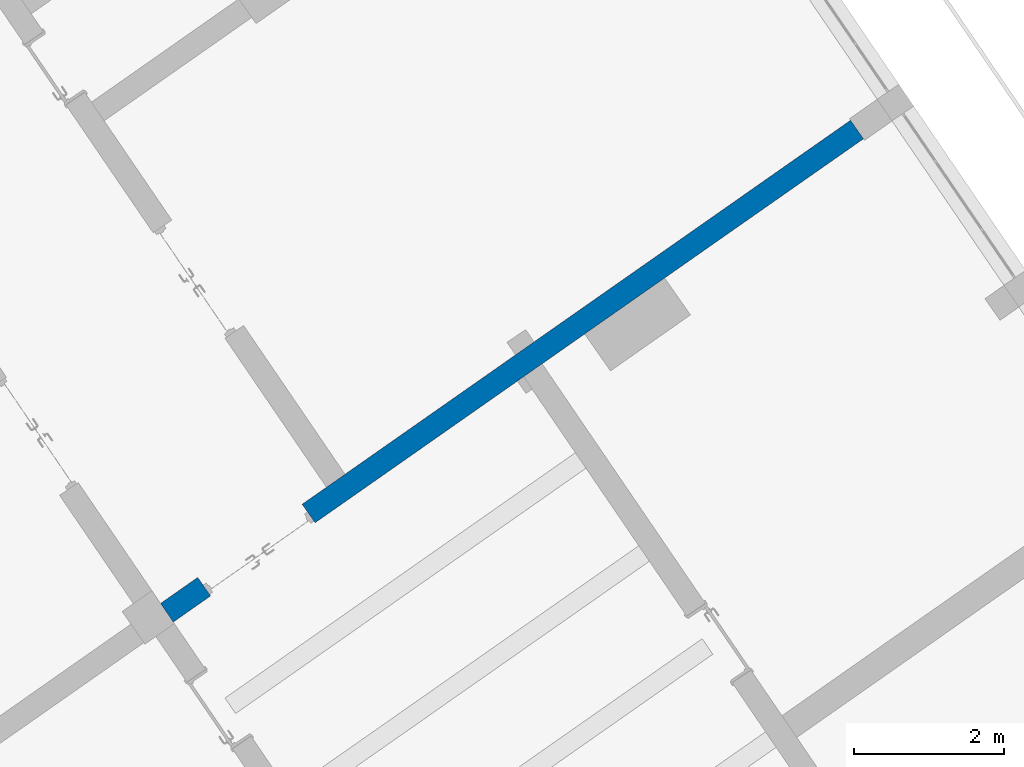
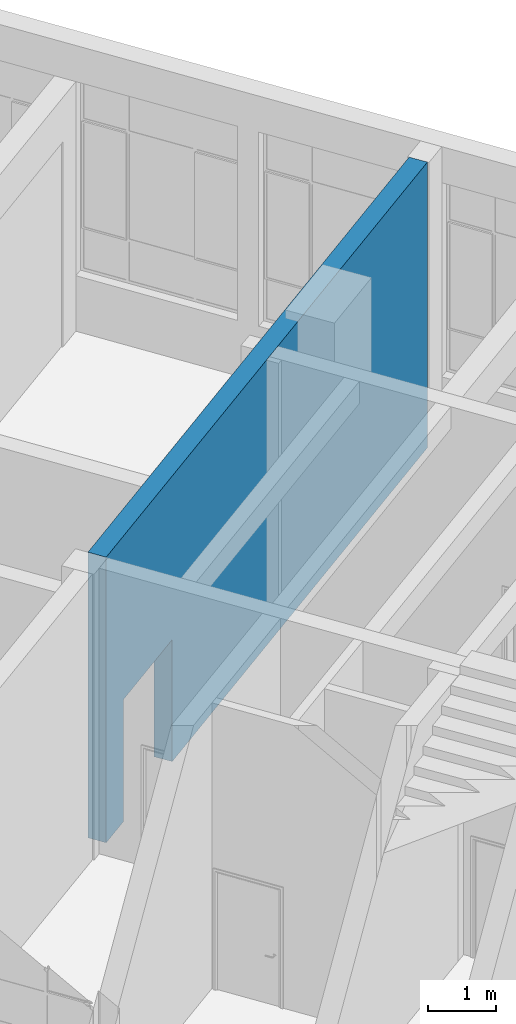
# One storey, part 79 of 157: 1 wall, 1 opening.
"""IFC2X3 building model written with IfcOpenShell, lengths in millimetres."""

from ifc_helpers import new_model, entity, si_unit, converted_unit, derived_unit, direction, frame, frame_2d, origin, place, context, subcontext, project, spatial, polyline, rectangle, outline, extrude, material, layer, layer_set, layer_usage, type_object, element, save


model = new_model("IFC2X3")

# Units and contexts
model_context = context("Model", 3, precision=0.01, world=origin(), true_north=direction((6.123031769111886e-17, 1.0)))
body_context = subcontext(model_context, "Body", "Model", "MODEL_VIEW")
ifc_project = project(units=[si_unit("LENGTHUNIT", "METRE", prefix="MILLI"), si_unit("AREAUNIT", "SQUARE_METRE"), si_unit("VOLUMEUNIT", "CUBIC_METRE"), converted_unit("PLANEANGLEUNIT", "DEGREE", entity("IfcRatioMeasure", 0.017453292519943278), si_unit("PLANEANGLEUNIT", "RADIAN"), dimensions=[0, 0, 0, 0, 0, 0, 0]), si_unit("MASSUNIT", "GRAM", prefix="KILO"), derived_unit("MASSDENSITYUNIT", [(si_unit("MASSUNIT", "GRAM", prefix="KILO"), 1), (si_unit("LENGTHUNIT", "METRE"), -3)]), derived_unit("MOMENTOFINERTIAUNIT", [(si_unit("LENGTHUNIT", "METRE"), 4)]), si_unit("TIMEUNIT", "SECOND"), si_unit("FREQUENCYUNIT", "HERTZ"), si_unit("THERMODYNAMICTEMPERATUREUNIT", "DEGREE_CELSIUS"), derived_unit("THERMALTRANSMITTANCEUNIT", [(si_unit("MASSUNIT", "GRAM", prefix="KILO"), 1), (si_unit("THERMODYNAMICTEMPERATUREUNIT", "KELVIN"), -1), (si_unit("TIMEUNIT", "SECOND"), -3)]), derived_unit("THERMALCONDUCTANCEUNIT", [(si_unit("MASSUNIT", "GRAM", prefix="KILO"), 1), (si_unit("LENGTHUNIT", "METRE"), 1), (si_unit("THERMODYNAMICTEMPERATUREUNIT", "KELVIN"), -1), (si_unit("TIMEUNIT", "SECOND"), -3)]), derived_unit("VOLUMETRICFLOWRATEUNIT", [(si_unit("LENGTHUNIT", "METRE"), 3), (si_unit("TIMEUNIT", "SECOND"), -1)]), derived_unit("MASSFLOWRATEUNIT", [(si_unit("MASSUNIT", "GRAM", prefix="KILO"), 1), (si_unit("TIMEUNIT", "SECOND"), -1)]), derived_unit("ROTATIONALFREQUENCYUNIT", [(si_unit("TIMEUNIT", "SECOND"), -1)]), si_unit("ELECTRICCURRENTUNIT", "AMPERE"), si_unit("ELECTRICVOLTAGEUNIT", "VOLT"), si_unit("POWERUNIT", "WATT"), converted_unit("FORCEUNIT", "KIP", entity("IfcRatioMeasure", 2.088543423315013e-05), si_unit("FORCEUNIT", "NEWTON"), dimensions=[1, 1, -2, 0, 0, 0, 0]), si_unit("ILLUMINANCEUNIT", "LUX"), si_unit("LUMINOUSFLUXUNIT", "LUMEN"), si_unit("LUMINOUSINTENSITYUNIT", "CANDELA"), derived_unit("USERDEFINED", [(si_unit("MASSUNIT", "GRAM", prefix="KILO"), -1), (si_unit("LENGTHUNIT", "METRE"), -2), (si_unit("TIMEUNIT", "SECOND"), 3), (si_unit("LUMINOUSFLUXUNIT", "LUMEN"), 1)]), derived_unit("USERDEFINED", [(si_unit("MASSUNIT", "GRAM", prefix="KILO"), 1), (si_unit("LENGTHUNIT", "METRE"), 3), (si_unit("TIMEUNIT", "SECOND"), -3), (si_unit("ELECTRICCURRENTUNIT", "AMPERE"), -2)]), derived_unit("USERDEFINED", [(si_unit("LENGTHUNIT", "METRE"), 2), (si_unit("TIMEUNIT", "SECOND"), -2)]), derived_unit("SOUNDPOWERUNIT", [(si_unit("MASSUNIT", "GRAM", prefix="KILO"), 1), (si_unit("LENGTHUNIT", "METRE"), 2), (si_unit("TIMEUNIT", "SECOND"), -3)]), derived_unit("SOUNDPRESSUREUNIT", [(si_unit("MASSUNIT", "GRAM", prefix="KILO"), 1), (si_unit("LENGTHUNIT", "METRE"), -1), (si_unit("TIMEUNIT", "SECOND"), -2)]), derived_unit("LINEARVELOCITYUNIT", [(si_unit("LENGTHUNIT", "METRE"), 1), (si_unit("TIMEUNIT", "SECOND"), -1)]), si_unit("PRESSUREUNIT", "PASCAL"), derived_unit("USERDEFINED", [(si_unit("LENGTHUNIT", "METRE"), -2), (si_unit("MASSUNIT", "GRAM", prefix="KILO"), 1), (si_unit("TIMEUNIT", "SECOND"), -2)]), derived_unit("LINEARFORCEUNIT", [(si_unit("MASSUNIT", "GRAM", prefix="KILO"), 1), (si_unit("LENGTHUNIT", "METRE"), 1), (si_unit("TIMEUNIT", "SECOND"), -2), (si_unit("LENGTHUNIT", "METRE"), -1)]), derived_unit("PLANARFORCEUNIT", [(si_unit("MASSUNIT", "GRAM", prefix="KILO"), 1), (si_unit("LENGTHUNIT", "METRE"), 1), (si_unit("TIMEUNIT", "SECOND"), -2), (si_unit("LENGTHUNIT", "METRE"), -2)]), derived_unit("SPECIFICHEATCAPACITYUNIT", [(si_unit("LENGTHUNIT", "METRE"), 2), (si_unit("TIMEUNIT", "SECOND"), -2), (si_unit("THERMODYNAMICTEMPERATUREUNIT", "KELVIN"), -1)]), derived_unit("VAPORPERMEABILITYUNIT", [(si_unit("TIMEUNIT", "SECOND"), 1), (si_unit("LENGTHUNIT", "METRE"), -1)]), derived_unit("DYNAMICVISCOSITYUNIT", [(si_unit("MASSUNIT", "GRAM", prefix="KILO"), 1), (si_unit("LENGTHUNIT", "METRE"), -1), (si_unit("TIMEUNIT", "SECOND"), -1)]), derived_unit("THERMALEXPANSIONCOEFFICIENTUNIT", [(si_unit("THERMODYNAMICTEMPERATUREUNIT", "KELVIN"), -1)])], contexts=[model_context])

# Site, building, storey
site_placement = place(None, frame((0.0, 0.0, 0.0), z_axis=(0.0, 0.0, 1.0), x_axis=(0.8191520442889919, 0.5735764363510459, 0.0)))
site = spatial("IfcSite", under=ifc_project, at=site_placement, Name="Default", CompositionType="ELEMENT")
building_placement = place(site_placement, origin())
building = spatial("IfcBuilding", under=site, at=building_placement, CompositionType="ELEMENT")
storey_placement = place(building_placement, origin())
storey = spatial("IfcBuildingStorey", under=building, at=storey_placement, Name="1.EG +0.00", CompositionType="ELEMENT", Elevation=-4.331468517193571e-12)

# Wall, opening
ifc_material = material(Name="Analytical Wall Surface_CJC")
ifc_layer = layer(ifc_material, 300.0)
ifc_layer_set = layer_set([ifc_layer], Name="Basic Wall:Wand_Innen_30")
ifc_layer_usage = layer_usage(ifc_layer_set, "AXIS2", "NEGATIVE", 150.0)
wall_type = type_object("IfcWallType", Name="Basic Wall:Wand_Innen_30", PredefinedType="STANDARD", material=ifc_layer_set)
wall_placement = place(storey_placement, frame((-205470.4458987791, 121696.35891435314, 0.0), z_axis=(0.0, 0.0, 1.0), x_axis=(-1.0, 0.0, 0.0)))
wall = element("IfcWallStandardCase", 1, at=wall_placement, inside=storey, type_object=wall_type, material=ifc_layer_usage, Name="Basic Wall:Wand_Innen_30", ObjectType="Basic Wall:Wand_Innen_30", context=body_context, shape_type="SweptSolid", body=[
    extrude(outline(polyline([(0.0, -150.0), (5148.531752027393, -150.0), (5448.556061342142, -150.0), (11223.686843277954, -150.0), (11227.506029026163, 150.0), (5527.405908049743, 150.0), (5227.381598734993, 150.0), (4534.8457534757, 150.0), (3234.845753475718, 150.0), (0.0, 150.0), (0.0, -150.0)])), origin(), (0.0, 0.0, 1.0), 5150.000000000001),
])
opening_placement = place(wall_placement, frame((8920.0, -150.0, 0.0)))
element("IfcOpeningElement", 2, at=opening_placement, cuts=wall, Name="M_Door-Passage-Double-Flush:160x210:1", ObjectType="Opening", context=body_context, shape_type="SweptSolid", body=[
    extrude(rectangle(XDim=2200.0, YDim=1699.9999999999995, at=frame_2d((1100.0, 849.9999999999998), x_axis=(1.0, 0.0))), frame((0.0, 0.0, 0.0), z_axis=(0.0, 1.0, 0.0), x_axis=(0.0, 0.0, 1.0)), (0.0, 0.0, 1.0), 300.0),
])

save(model, "model.ifc")
